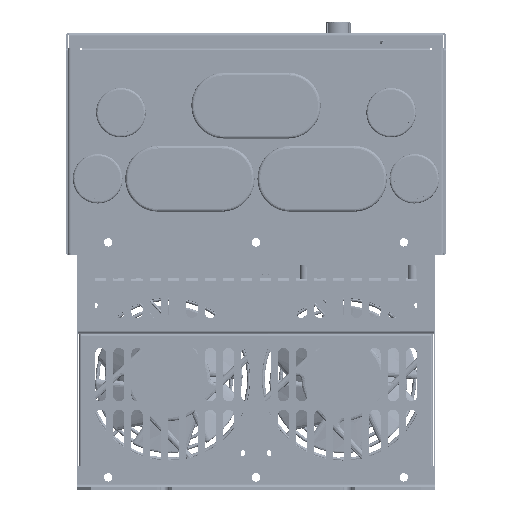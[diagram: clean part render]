
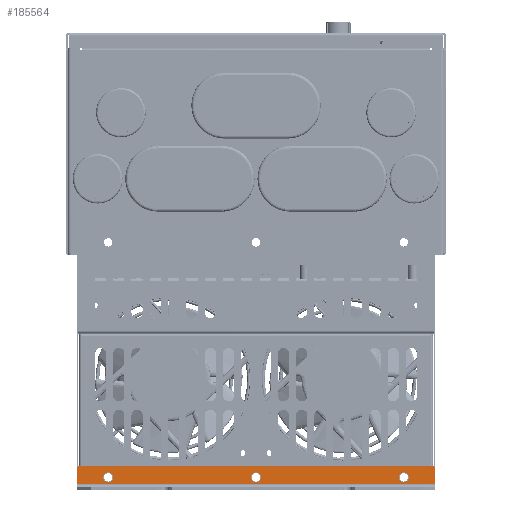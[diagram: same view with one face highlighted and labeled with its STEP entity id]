
A CAD part, left-side view. The second image highlights one B-rep face of the part: STEP entity #185564.
In plain terms, the highlighted planar face has unit normal (-1, 0, 0).
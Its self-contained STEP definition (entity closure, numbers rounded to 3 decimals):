
#3275 = FACE_BOUND ( 'NONE', #165817, .T. ) ;
#4061 = CARTESIAN_POINT ( 'NONE',  ( 6.5, 2., -127.5 ) ) ;
#4942 = EDGE_CURVE ( 'NONE', #154880, #124388, #132598, .T. ) ;
#4988 = AXIS2_PLACEMENT_3D ( 'NONE', #109937, #39418, #9502 ) ;
#5106 = ORIENTED_EDGE ( 'NONE', *, *, #176261, .T. ) ;
#5166 = PLANE ( 'NONE',  #8769 ) ;
#6293 = VERTEX_POINT ( 'NONE', #131326 ) ;
#6940 = VECTOR ( 'NONE', #42606, 1000. ) ;
#7308 = EDGE_CURVE ( 'NONE', #85941, #78969, #79285, .T. ) ;
#8769 = AXIS2_PLACEMENT_3D ( 'NONE', #123840, #48808, #20194 ) ;
#9487 = EDGE_CURVE ( 'NONE', #59854, #78969, #111697, .T. ) ;
#9502 = DIRECTION ( 'NONE',  ( 0., 0., 1. ) ) ;
#10794 = ORIENTED_EDGE ( 'NONE', *, *, #21162, .T. ) ;
#14970 = CARTESIAN_POINT ( 'NONE',  ( 6.5, 13., -127.5 ) ) ;
#19116 = VECTOR ( 'NONE', #190509, 1000. ) ;
#20124 = DIRECTION ( 'NONE',  ( 0., 0., 1. ) ) ;
#20194 = DIRECTION ( 'NONE',  ( 0., 0., 1. ) ) ;
#21162 = EDGE_CURVE ( 'NONE', #49166, #130861, #99345, .T. ) ;
#25675 = CARTESIAN_POINT ( 'NONE',  ( 6.5, 13., 125.5 ) ) ;
#27002 = CARTESIAN_POINT ( 'NONE',  ( 6.5, 8.5, 127.5 ) ) ;
#28891 = FACE_BOUND ( 'NONE', #88063, .T. ) ;
#33092 = AXIS2_PLACEMENT_3D ( 'NONE', #53781, #173149, #95581 ) ;
#36552 = CARTESIAN_POINT ( 'NONE',  ( 6.5, 15., -125.5 ) ) ;
#39339 = CARTESIAN_POINT ( 'NONE',  ( 6.5, 7., 105. ) ) ;
#39418 = DIRECTION ( 'NONE',  ( 1., 0., 0. ) ) ;
#39986 = DIRECTION ( 'NONE',  ( 0., 0., 1. ) ) ;
#41092 = AXIS2_PLACEMENT_3D ( 'NONE', #51418, #155859, #81412 ) ;
#41588 = CARTESIAN_POINT ( 'NONE',  ( 6.5, 7., 3.5 ) ) ;
#42606 = DIRECTION ( 'NONE',  ( 0., 1., 0. ) ) ;
#48766 = ORIENTED_EDGE ( 'NONE', *, *, #142038, .T. ) ;
#48808 = DIRECTION ( 'NONE',  ( -1., 0., 0. ) ) ;
#48915 = CARTESIAN_POINT ( 'NONE',  ( 6.5, 13., 127.5 ) ) ;
#49166 = VERTEX_POINT ( 'NONE', #69202 ) ;
#49374 = DIRECTION ( 'NONE',  ( 1., 0., 0. ) ) ;
#51286 = CARTESIAN_POINT ( 'NONE',  ( 6.5, 13., -125.5 ) ) ;
#51418 = CARTESIAN_POINT ( 'NONE',  ( 6.5, 7., -105. ) ) ;
#53781 = CARTESIAN_POINT ( 'NONE',  ( 6.5, 7., 0. ) ) ;
#54343 = DIRECTION ( 'NONE',  ( 1., 0., 0. ) ) ;
#59854 = VERTEX_POINT ( 'NONE', #109310 ) ;
#66605 = EDGE_LOOP ( 'NONE', ( #109143, #173894, #48766, #172068, #178992, #115027 ) ) ;
#69202 = CARTESIAN_POINT ( 'NONE',  ( 6.5, 7., 101.5 ) ) ;
#71582 = EDGE_LOOP ( 'NONE', ( #112722, #110078 ) ) ;
#73127 = CARTESIAN_POINT ( 'NONE',  ( 6.5, 2., 127.5 ) ) ;
#76034 = EDGE_CURVE ( 'NONE', #137459, #6293, #146011, .T. ) ;
#76153 = CIRCLE ( 'NONE', #112069, 3.5 ) ;
#78435 = AXIS2_PLACEMENT_3D ( 'NONE', #25675, #54343, #130676 ) ;
#78969 = VERTEX_POINT ( 'NONE', #48915 ) ;
#79285 = LINE ( 'NONE', #27002, #6940 ) ;
#79957 = EDGE_CURVE ( 'NONE', #127210, #170894, #154295, .T. ) ;
#80884 = CARTESIAN_POINT ( 'NONE',  ( 6.5, 7., 105. ) ) ;
#81412 = DIRECTION ( 'NONE',  ( 0., 0., 1. ) ) ;
#84371 = CIRCLE ( 'NONE', #4988, 3.5 ) ;
#84817 = DIRECTION ( 'NONE',  ( 0., -1., 0. ) ) ;
#85941 = VERTEX_POINT ( 'NONE', #87368 ) ;
#86298 = EDGE_CURVE ( 'NONE', #124388, #154880, #76153, .T. ) ;
#86349 = EDGE_CURVE ( 'NONE', #127210, #172590, #134564, .T. ) ;
#87368 = CARTESIAN_POINT ( 'NONE',  ( 6.5, 2., 127.5 ) ) ;
#88063 = EDGE_LOOP ( 'NONE', ( #161982, #104552 ) ) ;
#89013 = AXIS2_PLACEMENT_3D ( 'NONE', #39339, #130678, #39986 ) ;
#90029 = EDGE_CURVE ( 'NONE', #6293, #137459, #84371, .T. ) ;
#95428 = CARTESIAN_POINT ( 'NONE',  ( 6.5, 7., -101.5 ) ) ;
#95581 = DIRECTION ( 'NONE',  ( 0., 0., 1. ) ) ;
#97837 = CARTESIAN_POINT ( 'NONE',  ( 6.5, 7., 108.5 ) ) ;
#99345 = CIRCLE ( 'NONE', #182180, 3.5 ) ;
#104552 = ORIENTED_EDGE ( 'NONE', *, *, #86298, .T. ) ;
#107747 = LINE ( 'NONE', #73127, #19116 ) ;
#109143 = ORIENTED_EDGE ( 'NONE', *, *, #7308, .T. ) ;
#109310 = CARTESIAN_POINT ( 'NONE',  ( 6.5, 15., 125.5 ) ) ;
#109937 = CARTESIAN_POINT ( 'NONE',  ( 6.5, 7., -105. ) ) ;
#110078 = ORIENTED_EDGE ( 'NONE', *, *, #90029, .T. ) ;
#111697 = CIRCLE ( 'NONE', #78435, 2. ) ;
#112069 = AXIS2_PLACEMENT_3D ( 'NONE', #138793, #49374, #20124 ) ;
#112722 = ORIENTED_EDGE ( 'NONE', *, *, #76034, .T. ) ;
#115027 = ORIENTED_EDGE ( 'NONE', *, *, #166278, .T. ) ;
#116796 = CARTESIAN_POINT ( 'NONE',  ( 6.5, 8.5, -127.5 ) ) ;
#122560 = CARTESIAN_POINT ( 'NONE',  ( 6.5, 15., 0. ) ) ;
#123840 = CARTESIAN_POINT ( 'NONE',  ( 6.5, -2., 127.5 ) ) ;
#124388 = VERTEX_POINT ( 'NONE', #158503 ) ;
#126642 = LINE ( 'NONE', #122560, #189673 ) ;
#127210 = VERTEX_POINT ( 'NONE', #14970 ) ;
#130676 = DIRECTION ( 'NONE',  ( 0., 0., -1. ) ) ;
#130678 = DIRECTION ( 'NONE',  ( 1., 0., 0. ) ) ;
#130861 = VERTEX_POINT ( 'NONE', #97837 ) ;
#131326 = CARTESIAN_POINT ( 'NONE',  ( 6.5, 7., -108.5 ) ) ;
#132598 = CIRCLE ( 'NONE', #33092, 3.5 ) ;
#134564 = CIRCLE ( 'NONE', #188319, 2. ) ;
#137459 = VERTEX_POINT ( 'NONE', #95428 ) ;
#138793 = CARTESIAN_POINT ( 'NONE',  ( 6.5, 7., 0. ) ) ;
#142038 = EDGE_CURVE ( 'NONE', #59854, #172590, #126642, .T. ) ;
#142869 = DIRECTION ( 'NONE',  ( 1., 0., 0. ) ) ;
#143265 = FACE_OUTER_BOUND ( 'NONE', #66605, .T. ) ;
#146011 = CIRCLE ( 'NONE', #41092, 3.5 ) ;
#147951 = FACE_BOUND ( 'NONE', #71582, .T. ) ;
#153220 = DIRECTION ( 'NONE',  ( 0., 0., -1. ) ) ;
#154295 = LINE ( 'NONE', #116796, #165825 ) ;
#154880 = VERTEX_POINT ( 'NONE', #41588 ) ;
#155329 = DIRECTION ( 'NONE',  ( 0., 0., 1. ) ) ;
#155713 = DIRECTION ( 'NONE',  ( 1., 0., 0. ) ) ;
#155859 = DIRECTION ( 'NONE',  ( 1., 0., 0. ) ) ;
#156984 = DIRECTION ( 'NONE',  ( 0., 0., -1. ) ) ;
#158503 = CARTESIAN_POINT ( 'NONE',  ( 6.5, 7., -3.5 ) ) ;
#161982 = ORIENTED_EDGE ( 'NONE', *, *, #4942, .T. ) ;
#165817 = EDGE_LOOP ( 'NONE', ( #5106, #10794 ) ) ;
#165825 = VECTOR ( 'NONE', #84817, 1000. ) ;
#166278 = EDGE_CURVE ( 'NONE', #170894, #85941, #107747, .T. ) ;
#170894 = VERTEX_POINT ( 'NONE', #4061 ) ;
#172068 = ORIENTED_EDGE ( 'NONE', *, *, #86349, .F. ) ;
#172590 = VERTEX_POINT ( 'NONE', #36552 ) ;
#173149 = DIRECTION ( 'NONE',  ( 1., 0., 0. ) ) ;
#173894 = ORIENTED_EDGE ( 'NONE', *, *, #9487, .F. ) ;
#176261 = EDGE_CURVE ( 'NONE', #130861, #49166, #180551, .T. ) ;
#178992 = ORIENTED_EDGE ( 'NONE', *, *, #79957, .T. ) ;
#180551 = CIRCLE ( 'NONE', #89013, 3.5 ) ;
#182180 = AXIS2_PLACEMENT_3D ( 'NONE', #80884, #142869, #155329 ) ;
#185564 = ADVANCED_FACE ( 'NONE', ( #147951, #3275, #28891, #143265 ), #5166, .T. ) ;
#188319 = AXIS2_PLACEMENT_3D ( 'NONE', #51286, #155713, #156984 ) ;
#189673 = VECTOR ( 'NONE', #153220, 1000. ) ;
#190509 = DIRECTION ( 'NONE',  ( 0., 0., 1. ) ) ;
